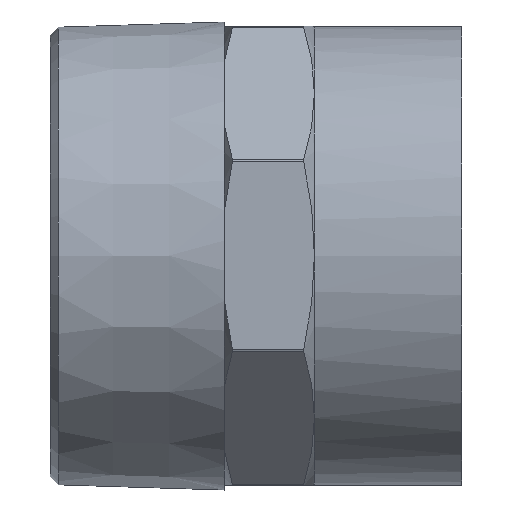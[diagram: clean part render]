
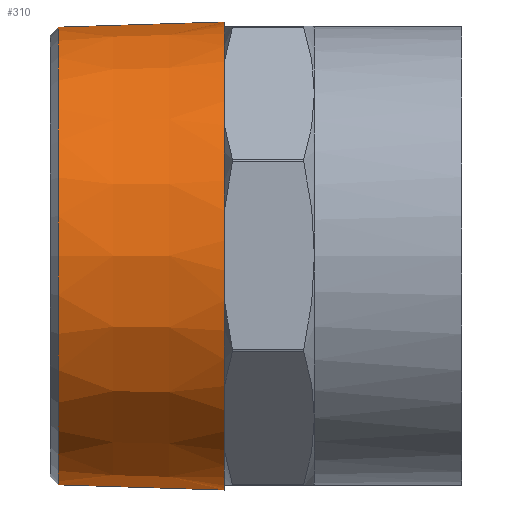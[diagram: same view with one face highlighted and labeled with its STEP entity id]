
A CAD part, top view. The second image highlights one B-rep face of the part: STEP entity #310.
In plain terms, the highlighted conical face has half-angle 1.78 degrees and reference radius 43.818 mm.
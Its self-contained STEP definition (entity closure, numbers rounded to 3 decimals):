
#197=CARTESIAN_POINT('',(16.5,0.0,0.0));
#198=DIRECTION('',(1.0,0.0,0.0));
#199=DIRECTION('',(0.0,1.0,0.0));
#200=AXIS2_PLACEMENT_3D('',#197,#198,#199);
#201=CONICAL_SURFACE('',#200,43.818,1.78);
#202=CARTESIAN_POINT('',(1.499,43.352,0.));
#203=VERTEX_POINT('',#202);
#204=CARTESIAN_POINT('',(33.,44.331,0.));
#205=VERTEX_POINT('',#204);
#206=CARTESIAN_POINT('',(1.499,43.352,0.));
#207=DIRECTION('',(1.,0.031,0.));
#208=VECTOR('',#207,31.516);
#209=LINE('',#206,#208);
#210=EDGE_CURVE('',#203,#205,#209,.T.);
#211=ORIENTED_EDGE('',*,*,#210,.F.);
#212=CARTESIAN_POINT('',(1.499,-43.352,0.));
#213=VERTEX_POINT('',#212);
#214=CARTESIAN_POINT('',(1.499,0.0,0.));
#215=DIRECTION('',(-1.0,0.0,0.0));
#216=DIRECTION('',(0.0,-1.0,0.0));
#217=AXIS2_PLACEMENT_3D('',#214,#215,#216);
#218=CIRCLE('',#217,43.352);
#219=EDGE_CURVE('',#213,#203,#218,.T.);
#220=ORIENTED_EDGE('',*,*,#219,.F.);
#221=CARTESIAN_POINT('',(33.,-44.331,0.));
#222=VERTEX_POINT('',#221);
#223=CARTESIAN_POINT('',(33.,-44.331,0.));
#224=DIRECTION('',(-1.,0.031,0.));
#225=VECTOR('',#224,31.516);
#226=LINE('',#223,#225);
#227=EDGE_CURVE('',#222,#213,#226,.T.);
#228=ORIENTED_EDGE('',*,*,#227,.F.);
#229=CARTESIAN_POINT('',(33.,-43.5,8.541));
#230=VERTEX_POINT('',#229);
#231=CARTESIAN_POINT('',(33.,0.0,0.0));
#232=DIRECTION('',(1.0,0.0,0.0));
#233=DIRECTION('',(0.0,1.0,0.0));
#234=AXIS2_PLACEMENT_3D('',#231,#232,#233);
#235=CIRCLE('',#234,44.331);
#236=EDGE_CURVE('',#230,#222,#235,.T.);
#237=ORIENTED_EDGE('',*,*,#236,.F.);
#238=CARTESIAN_POINT('',(33.,-36.798,24.72));
#239=VERTEX_POINT('',#238);
#240=CARTESIAN_POINT('',(33.,0.0,0.0));
#241=DIRECTION('',(1.0,0.0,0.0));
#242=DIRECTION('',(0.0,1.0,0.0));
#243=AXIS2_PLACEMENT_3D('',#240,#241,#242);
#244=CIRCLE('',#243,44.331);
#245=EDGE_CURVE('',#239,#230,#244,.T.);
#246=ORIENTED_EDGE('',*,*,#245,.F.);
#247=CARTESIAN_POINT('',(33.,-24.72,36.798));
#248=VERTEX_POINT('',#247);
#249=CARTESIAN_POINT('',(33.,0.0,0.0));
#250=DIRECTION('',(1.0,0.0,0.0));
#251=DIRECTION('',(0.0,1.0,0.0));
#252=AXIS2_PLACEMENT_3D('',#249,#250,#251);
#253=CIRCLE('',#252,44.331);
#254=EDGE_CURVE('',#248,#239,#253,.T.);
#255=ORIENTED_EDGE('',*,*,#254,.F.);
#256=CARTESIAN_POINT('',(33.,-8.541,43.5));
#257=VERTEX_POINT('',#256);
#258=CARTESIAN_POINT('',(33.,0.0,0.0));
#259=DIRECTION('',(1.0,0.0,0.0));
#260=DIRECTION('',(0.0,1.0,0.0));
#261=AXIS2_PLACEMENT_3D('',#258,#259,#260);
#262=CIRCLE('',#261,44.331);
#263=EDGE_CURVE('',#257,#248,#262,.T.);
#264=ORIENTED_EDGE('',*,*,#263,.F.);
#265=CARTESIAN_POINT('',(33.,8.541,43.5));
#266=VERTEX_POINT('',#265);
#267=CARTESIAN_POINT('',(33.,0.0,0.0));
#268=DIRECTION('',(1.0,0.0,0.0));
#269=DIRECTION('',(0.0,1.0,0.0));
#270=AXIS2_PLACEMENT_3D('',#267,#268,#269);
#271=CIRCLE('',#270,44.331);
#272=EDGE_CURVE('',#266,#257,#271,.T.);
#273=ORIENTED_EDGE('',*,*,#272,.F.);
#274=CARTESIAN_POINT('',(33.,24.72,36.798));
#275=VERTEX_POINT('',#274);
#276=CARTESIAN_POINT('',(33.,0.0,0.0));
#277=DIRECTION('',(1.0,0.0,0.0));
#278=DIRECTION('',(0.0,1.0,0.0));
#279=AXIS2_PLACEMENT_3D('',#276,#277,#278);
#280=CIRCLE('',#279,44.331);
#281=EDGE_CURVE('',#275,#266,#280,.T.);
#282=ORIENTED_EDGE('',*,*,#281,.F.);
#283=CARTESIAN_POINT('',(33.,36.798,24.72));
#284=VERTEX_POINT('',#283);
#285=CARTESIAN_POINT('',(33.,0.0,0.0));
#286=DIRECTION('',(1.0,0.0,0.0));
#287=DIRECTION('',(0.0,1.0,0.0));
#288=AXIS2_PLACEMENT_3D('',#285,#286,#287);
#289=CIRCLE('',#288,44.331);
#290=EDGE_CURVE('',#284,#275,#289,.T.);
#291=ORIENTED_EDGE('',*,*,#290,.F.);
#292=CARTESIAN_POINT('',(33.,43.5,8.541));
#293=VERTEX_POINT('',#292);
#294=CARTESIAN_POINT('',(33.,0.0,0.0));
#295=DIRECTION('',(1.0,0.0,0.0));
#296=DIRECTION('',(0.0,1.0,0.0));
#297=AXIS2_PLACEMENT_3D('',#294,#295,#296);
#298=CIRCLE('',#297,44.331);
#299=EDGE_CURVE('',#293,#284,#298,.T.);
#300=ORIENTED_EDGE('',*,*,#299,.F.);
#301=CARTESIAN_POINT('',(33.,0.0,0.0));
#302=DIRECTION('',(1.0,0.0,0.0));
#303=DIRECTION('',(0.0,1.0,0.0));
#304=AXIS2_PLACEMENT_3D('',#301,#302,#303);
#305=CIRCLE('',#304,44.331);
#306=EDGE_CURVE('',#205,#293,#305,.T.);
#307=ORIENTED_EDGE('',*,*,#306,.F.);
#308=EDGE_LOOP('',(#211,#220,#228,#237,#246,#255,#264,#273,#282,#291,#300,#307));
#309=FACE_OUTER_BOUND('',#308,.T.);
#310=ADVANCED_FACE('',(#309),#201,.T.);
